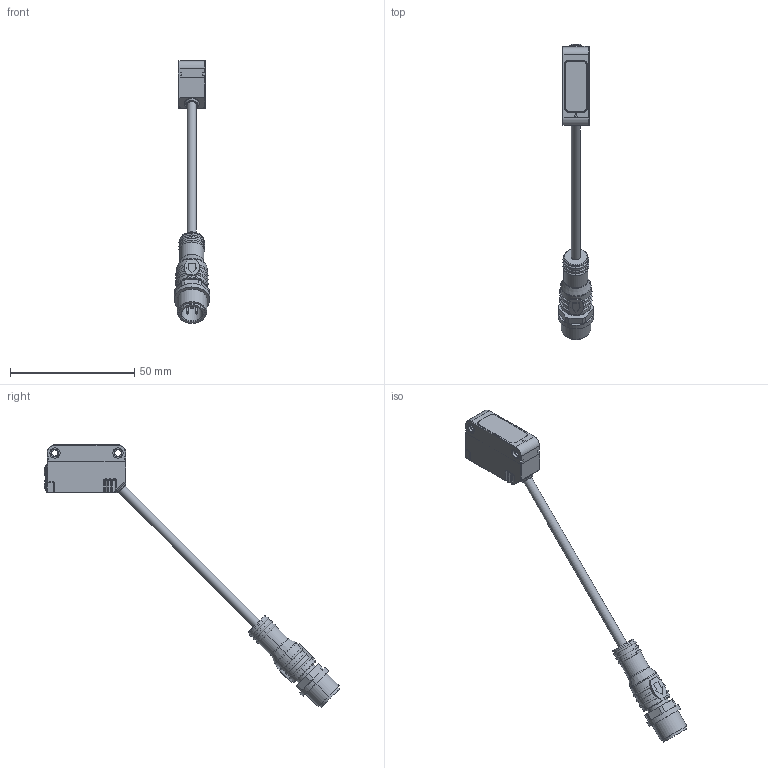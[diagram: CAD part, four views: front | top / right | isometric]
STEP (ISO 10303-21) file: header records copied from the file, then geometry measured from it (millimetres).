
FILE_DESCRIPTION(/* description */ (''),/* implementation_level */ '2;1');
FILE_NAME(/* name */ 'DSD-1158.stp',/* time_stamp */ '2024-06-25T11:38:03+02:00',/* author */ (''),/* organization */ (''),/* preprocessor_version */ 'ST-DEVELOPER v16.701',/* originating_system */ 'SIEMENS PLM Software NX 1946',/* authorisation */ '');
FILE_SCHEMA (('AUTOMOTIVE_DESIGN { 1 0 10303 214 3 1 1 1 }'));
Length unit declared in the file: millimetre
Products named in the file (3): AP061499_00-Bottom Cover per DSD 1158; AP061285_00-Optic Box Group per DSD; AS008632_00-S3N - DSD
Assembly tree (2 placements, depth 2):
  AS008632_00-S3N - DSD
    AP061285_00-Optic Box Group per DSD
    AP061499_00-Bottom Cover per DSD 1158
Bounding box: 14.5 x 118.93 x 105.87 mm (x, y, z)
Volume: 11296.9 mm3; surface area: 8118.2 mm2
Topology: 12 solids, 29 shells, 1716 faces, 4453 edges, 2825 vertices
Faces by surface type: plane 677, cylinder 328, extrusion 327, bspline 138, torus 133, sphere 68, cone 45
Full cylindrical faces by diameter (mm): 0.5 x2, 2.4 x1, 2.5 x2, 3.2 x4, 3.454 x1, 3.7 x2, 3.8 x1, 4.2 x8, 4.244 x1, 4.5 x2, 4.75 x2, 4.85 x2, 5 x2, 5.4 x1, 6.1 x1
Entity records: 61255 total; most frequent: CARTESIAN_POINT 21663, ORIENTED_EDGE 8532, DIRECTION 6981, EDGE_CURVE 4315, VERTEX_POINT 2798, VECTOR 2453, AXIS2_PLACEMENT_3D 2264, LINE 2126
